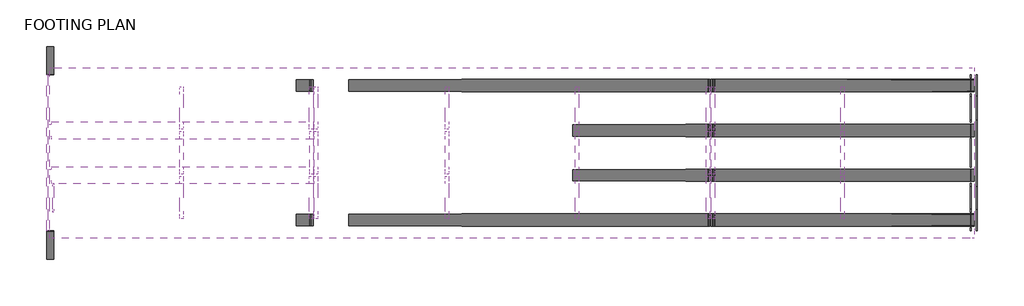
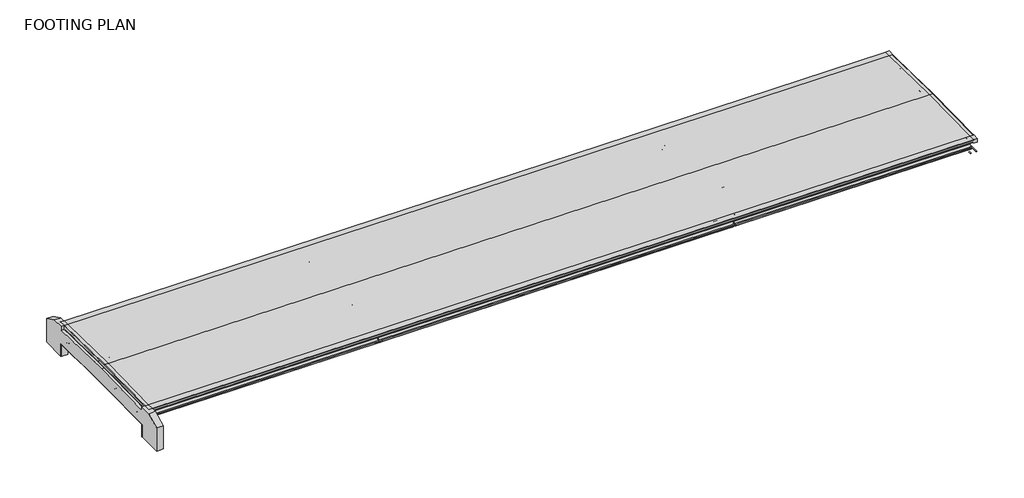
# One storey, incomplete: 44 proxies.
"""IFC4 building model written with IfcOpenShell, lengths in millimetres."""

from ifc_helpers import new_model, si_unit, origin, place, context, project, spatial, transform, mapped, element, save
from components import generic_models_fdd43730, generic_models_738b546a, generic_models_2d12cc2b, generic_models_4376c1b2, generic_models_01ca76c9, generic_models_9e09cbef, generic_models_699fb4ed, generic_models_4f76e8b5, generic_models_9be2dbe9, generic_models_f0f57694, generic_models_b2a3fb4c

model = new_model("IFC4")

# Units and contexts
model_context = context("Model", 3, world=origin())
ifc_project = project(units=[si_unit("LENGTHUNIT", "METRE", prefix="MILLI")], contexts=[model_context])

# Site, building, storey
site = spatial("IfcSite", under=ifc_project)
building = spatial("IfcBuilding", under=site)
storey = spatial("IfcBuildingStorey", under=building, Name="FOOTING PLAN", Elevation=864565.2)

# Proxies
placement = place(None, origin())
generic_models_shape = generic_models_fdd43730(model_context)
element("IfcBuildingElementProxy", 1, Name="Backwall.sat", ObjectType="Backwall.sat", at=placement, inside=storey, context=model_context, shape_type="MappedRepresentation", body=[
    mapped(generic_models_shape, transform((-32715.2, -1e-07, 864752.907016), x_axis=(0.0, -1.0, 0.0), y_axis=(0.0, 0.0, 1.0), z_axis=(-1.0, 0.0, 0.0))),
])
generic_models_2_shape = generic_models_738b546a(model_context)
element("IfcBuildingElementProxy", 2, Name="CapBWFiller.sat", ObjectType="CapBWFiller.sat", at=placement, inside=storey, context=model_context, shape_type="MappedRepresentation", body=[
    mapped(generic_models_2_shape, transform((-32639.0, -1e-07, 865768.907016), x_axis=(0.0, 1.0000000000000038, 0.0), y_axis=(0.0, 0.0, 1.0000000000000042), z_axis=(1.000000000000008, 0.0, 0.0))),
])
element("IfcBuildingElementProxy", 3, Name="CapBWFiller.sat", ObjectType="CapBWFiller.sat", at=placement, inside=storey, context=model_context, shape_type="MappedRepresentation", body=[
    mapped(generic_models_2_shape, transform((32639.0, -1e-07, 865511.249416), x_axis=(0.0, 1.0000000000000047, 0.0), y_axis=(0.0, 0.0, 1.000000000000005), z_axis=(-1.0000000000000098, 0.0, 0.0))),
])
generic_models_3_shape = generic_models_2d12cc2b(model_context)
element("IfcBuildingElementProxy", 4, Name="CapWWFiller.sat", ObjectType="CapWWFiller.sat", at=placement, inside=storey, context=model_context, shape_type="MappedRepresentation", body=[
    mapped(generic_models_3_shape, transform((-32207.2, -5505.4500001, 864752.907016), x_axis=(-1.0, 0.0, 0.0), y_axis=(0.0, 0.0, 1.0), z_axis=(0.0, 1.0, 0.0))),
])
element("IfcBuildingElementProxy", 5, Name="CapWWFiller.sat", ObjectType="CapWWFiller.sat", at=placement, inside=storey, context=model_context, shape_type="MappedRepresentation", body=[
    mapped(generic_models_3_shape, transform((-32207.2, 5505.4499999, 864752.907016), x_axis=(-1.0, 0.0, 0.0), y_axis=(0.0, 0.0, 1.0), z_axis=(0.0, -1.0, 0.0))),
])
generic_models_4_shape = generic_models_4376c1b2(model_context)
element("IfcBuildingElementProxy", 6, Name="MTS-45S2.sat", ObjectType="MTS-45S2.sat", at=placement, inside=storey, context=model_context, shape_type="MappedRepresentation", body=[
    mapped(generic_models_4_shape, transform((-13911.0719634, -4724.4000001, 865774.9613599), x_axis=(0.0, -0.9999999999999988, 0.0), y_axis=(-0.9999920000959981, 0.0, 0.003999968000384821), z_axis=(-0.003999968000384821, 0.0, -0.9999920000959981))),
])
element("IfcBuildingElementProxy", 7, Name="MTS-45S2.sat", ObjectType="MTS-45S2.sat", at=placement, inside=storey, context=model_context, shape_type="MappedRepresentation", body=[
    mapped(generic_models_4_shape, transform((-13911.0719634, -1574.8000001, 865837.9533599), x_axis=(0.0, -0.9999999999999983, 0.0), y_axis=(-0.9999920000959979, 0.0, 0.003999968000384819), z_axis=(-0.003999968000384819, 0.0, -0.9999920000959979))),
])
element("IfcBuildingElementProxy", 8, Name="MTS-45S2.sat", ObjectType="MTS-45S2.sat", at=placement, inside=storey, context=model_context, shape_type="MappedRepresentation", body=[
    mapped(generic_models_4_shape, transform((-13911.0719634, 4724.3999999, 865774.9613599), x_axis=(0.0, 0.9999999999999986, 0.0), y_axis=(-0.999992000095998, 0.0, 0.00399996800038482), z_axis=(-0.00399996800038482, 0.0, -0.999992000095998))),
])
element("IfcBuildingElementProxy", 9, Name="MTS-45S2.sat", ObjectType="MTS-45S2.sat", at=placement, inside=storey, context=model_context, shape_type="MappedRepresentation", body=[
    mapped(generic_models_4_shape, transform((-13911.0719634, 1574.7999999, 865837.9533599), x_axis=(0.0, 0.9999999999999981, 0.0), y_axis=(-0.9999920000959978, 0.0, 0.0039999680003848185), z_axis=(-0.0039999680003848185, 0.0, -0.9999920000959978))),
])
generic_models_5_shape = generic_models_01ca76c9(model_context)
element("IfcBuildingElementProxy", 10, Name="MTS-45S1S3.sat", ObjectType="MTS-45S1S3.sat", at=placement, inside=storey, context=model_context, shape_type="MappedRepresentation", body=[
    mapped(generic_models_5_shape, transform((-32499.2985386, -4724.4000001, 865833.1532069), x_axis=(0.0, -0.9999999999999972, 0.0), y_axis=(-0.9999923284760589, 0.0, 0.0039170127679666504), z_axis=(-0.0039170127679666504, 0.0, -0.9999923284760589))),
])
element("IfcBuildingElementProxy", 11, Name="MTS-45S1S3.sat", ObjectType="MTS-45S1S3.sat", at=placement, inside=storey, context=model_context, shape_type="MappedRepresentation", body=[
    mapped(generic_models_5_shape, transform((32499.2985386, -4724.4000001, 865574.0032251), x_axis=(0.0, -0.9999999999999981, 0.0), y_axis=(0.9999923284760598, 0.0, -0.003917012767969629), z_axis=(-0.003917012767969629, 0.0, -0.9999923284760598))),
])
element("IfcBuildingElementProxy", 12, Name="MTS-45S1S3.sat", ObjectType="MTS-45S1S3.sat", at=placement, inside=storey, context=model_context, shape_type="MappedRepresentation", body=[
    mapped(generic_models_5_shape, transform((-32499.2985386, -1574.8000001, 865896.1452069), x_axis=(0.0, -0.9999999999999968, 0.0), y_axis=(-0.9999923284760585, 0.0, 0.003917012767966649), z_axis=(-0.003917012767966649, 0.0, -0.9999923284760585))),
])
element("IfcBuildingElementProxy", 13, Name="MTS-45S1S3.sat", ObjectType="MTS-45S1S3.sat", at=placement, inside=storey, context=model_context, shape_type="MappedRepresentation", body=[
    mapped(generic_models_5_shape, transform((-32499.2985386, 4724.3999999, 865833.1532069), x_axis=(0.0, 0.999999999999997, 0.0), y_axis=(-0.9999923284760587, 0.0, 0.00391701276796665), z_axis=(-0.00391701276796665, 0.0, -0.9999923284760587))),
])
element("IfcBuildingElementProxy", 14, Name="MTS-45S1S3.sat", ObjectType="MTS-45S1S3.sat", at=placement, inside=storey, context=model_context, shape_type="MappedRepresentation", body=[
    mapped(generic_models_5_shape, transform((-32499.2985386, 1574.7999999, 865896.1452069), x_axis=(0.0, 0.9999999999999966, 0.0), y_axis=(-0.9999923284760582, 0.0, 0.003917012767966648), z_axis=(-0.003917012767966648, 0.0, -0.9999923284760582))),
])
element("IfcBuildingElementProxy", 15, Name="MTS-45S1S3.sat", ObjectType="MTS-45S1S3.sat", at=placement, inside=storey, context=model_context, shape_type="MappedRepresentation", body=[
    mapped(generic_models_5_shape, transform((32499.2985386, -1574.8000001, 865636.9952251), x_axis=(0.0, -0.9999999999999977, 0.0), y_axis=(0.9999923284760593, 0.0, -0.003917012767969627), z_axis=(-0.003917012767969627, 0.0, -0.9999923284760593))),
])
element("IfcBuildingElementProxy", 16, Name="MTS-45S1S3.sat", ObjectType="MTS-45S1S3.sat", at=placement, inside=storey, context=model_context, shape_type="MappedRepresentation", body=[
    mapped(generic_models_5_shape, transform((32499.2985386, 4724.3999999, 865574.0032251), x_axis=(0.0, 0.9999999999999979, 0.0), y_axis=(0.9999923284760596, 0.0, -0.003917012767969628), z_axis=(-0.003917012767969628, 0.0, -0.9999923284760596))),
])
element("IfcBuildingElementProxy", 17, Name="MTS-45S1S3.sat", ObjectType="MTS-45S1S3.sat", at=placement, inside=storey, context=model_context, shape_type="MappedRepresentation", body=[
    mapped(generic_models_5_shape, transform((32499.2985386, 1574.7999999, 865636.9952251), x_axis=(0.0, 0.9999999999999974, 0.0), y_axis=(0.9999923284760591, 0.0, -0.003917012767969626), z_axis=(-0.003917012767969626, 0.0, -0.9999923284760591))),
])
generic_models_6_shape = generic_models_9e09cbef(model_context)
element("IfcBuildingElementProxy", 18, Name="Slab.sat", ObjectType="Slab.sat", at=placement, inside=storey, context=model_context, shape_type="MappedRepresentation", body=[
    mapped(generic_models_6_shape, transform((-32207.2, -1e-07, 867332.785016), x_axis=(0.0, -1.0, 0.0), y_axis=(0.0, 0.0, 1.0), z_axis=(-1.0, 0.0, 0.0))),
])
generic_models_7_shape = generic_models_699fb4ed(model_context)
element("IfcBuildingElementProxy", 19, Name="CapBWFillerFront.sat", ObjectType="CapBWFillerFront.sat", at=placement, inside=storey, context=model_context, shape_type="MappedRepresentation", body=[
    mapped(generic_models_7_shape, transform((-32283.4, -1e-07, 865768.907016), x_axis=(0.0, -1.0000000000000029, 0.0), y_axis=(0.0, 0.0, 1.0000000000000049), z_axis=(-1.000000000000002, 0.0, 0.0))),
])
element("IfcBuildingElementProxy", 20, Name="CapBWFillerFront.sat", ObjectType="CapBWFillerFront.sat", at=placement, inside=storey, context=model_context, shape_type="MappedRepresentation", body=[
    mapped(generic_models_7_shape, transform((32207.2, 0.0, 865511.249416), x_axis=(0.0, -1.0000000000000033, 0.0), y_axis=(0.0, 0.0, 1.0000000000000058), z_axis=(-1.0000000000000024, 0.0, 0.0))),
])
generic_models_8_shape = generic_models_4f76e8b5(model_context)
element("IfcBuildingElementProxy", 21, Name="Diaphragm-Int.sat", ObjectType="Diaphragm-Int.sat", at=placement, inside=storey, context=model_context, shape_type="MappedRepresentation", body=[
    mapped(generic_models_8_shape, transform((-23241.0, -4876.8000001, 865650.8901116), x_axis=(0.0, -1.0, 0.0), y_axis=(0.0, 0.0, 1.0), z_axis=(-1.0, 0.0, 0.0))),
])
element("IfcBuildingElementProxy", 22, Name="Diaphragm-Int.sat", ObjectType="Diaphragm-Int.sat", at=placement, inside=storey, context=model_context, shape_type="MappedRepresentation", body=[
    mapped(generic_models_8_shape, transform((-23241.0, 4876.7999999, 865650.8901116), x_axis=(0.0, 1.0, 0.0), y_axis=(0.0, 0.0, 1.0), z_axis=(-1.0, 0.0, 0.0))),
])
element("IfcBuildingElementProxy", 23, Name="Diaphragm-Int.sat", ObjectType="Diaphragm-Int.sat", at=placement, inside=storey, context=model_context, shape_type="MappedRepresentation", body=[
    mapped(generic_models_8_shape, transform((-4572.0, -4876.8000001, 865576.7868191), x_axis=(0.0, -1.0, 0.0), y_axis=(0.0, 0.0, 1.0), z_axis=(-1.0, 0.0, 0.0))),
])
element("IfcBuildingElementProxy", 24, Name="Diaphragm-Int.sat", ObjectType="Diaphragm-Int.sat", at=placement, inside=storey, context=model_context, shape_type="MappedRepresentation", body=[
    mapped(generic_models_8_shape, transform((-4572.0, 4876.7999999, 865576.7868191), x_axis=(0.0, 1.0, 0.0), y_axis=(0.0, 0.0, 1.0), z_axis=(-1.0, 0.0, 0.0))),
])
element("IfcBuildingElementProxy", 25, Name="Diaphragm-Int.sat", ObjectType="Diaphragm-Int.sat", at=placement, inside=storey, context=model_context, shape_type="MappedRepresentation", body=[
    mapped(generic_models_8_shape, transform((4572.0, -4876.8000001, 865540.2041219), x_axis=(0.0, -1.0, 0.0), y_axis=(0.0, 0.0, 1.0), z_axis=(-1.0, 0.0, 0.0))),
])
element("IfcBuildingElementProxy", 26, Name="Diaphragm-Int.sat", ObjectType="Diaphragm-Int.sat", at=placement, inside=storey, context=model_context, shape_type="MappedRepresentation", body=[
    mapped(generic_models_8_shape, transform((4572.0, 4876.7999999, 865540.2041219), x_axis=(0.0, 1.0, 0.0), y_axis=(0.0, 0.0, 1.0), z_axis=(-1.0, 0.0, 0.0))),
])
element("IfcBuildingElementProxy", 27, Name="Diaphragm-Int.sat", ObjectType="Diaphragm-Int.sat", at=placement, inside=storey, context=model_context, shape_type="MappedRepresentation", body=[
    mapped(generic_models_8_shape, transform((23241.0, -4876.8000001, 865465.608245), x_axis=(0.0, -1.0, 0.0), y_axis=(0.0, 0.0, 1.0), z_axis=(-1.0, 0.0, 0.0))),
])
element("IfcBuildingElementProxy", 28, Name="Diaphragm-Int.sat", ObjectType="Diaphragm-Int.sat", at=placement, inside=storey, context=model_context, shape_type="MappedRepresentation", body=[
    mapped(generic_models_8_shape, transform((23241.0, 4876.7999999, 865465.608245), x_axis=(0.0, 1.0, 0.0), y_axis=(0.0, 0.0, 1.0), z_axis=(-1.0, 0.0, 0.0))),
])
generic_models_9_shape = generic_models_9be2dbe9(model_context)
element("IfcBuildingElementProxy", 29, Name="Diaphragm-IntCenter.sat", ObjectType="Diaphragm-IntCenter.sat", at=placement, inside=storey, context=model_context, shape_type="MappedRepresentation", body=[
    mapped(generic_models_9_shape, transform((-23241.0, -1727.2000001, 865711.8699845), x_axis=(0.0, -1.0, 0.0), y_axis=(0.0, 0.0, 1.0), z_axis=(-1.0, 0.0, 0.0))),
])
element("IfcBuildingElementProxy", 30, Name="Diaphragm-IntCenter.sat", ObjectType="Diaphragm-IntCenter.sat", at=placement, inside=storey, context=model_context, shape_type="MappedRepresentation", body=[
    mapped(generic_models_9_shape, transform((-4572.0, -1727.2000001, 865637.766692), x_axis=(0.0, -1.0, 0.0), y_axis=(0.0, 0.0, 1.0), z_axis=(-1.0, 0.0, 0.0))),
])
element("IfcBuildingElementProxy", 31, Name="Diaphragm-IntCenter.sat", ObjectType="Diaphragm-IntCenter.sat", at=placement, inside=storey, context=model_context, shape_type="MappedRepresentation", body=[
    mapped(generic_models_9_shape, transform((4572.0, -1727.2000001, 865601.1839948), x_axis=(0.0, -1.0, 0.0), y_axis=(0.0, 0.0, 1.0), z_axis=(-1.0, 0.0, 0.0))),
])
element("IfcBuildingElementProxy", 32, Name="Diaphragm-IntCenter.sat", ObjectType="Diaphragm-IntCenter.sat", at=placement, inside=storey, context=model_context, shape_type="MappedRepresentation", body=[
    mapped(generic_models_9_shape, transform((23241.0, -1727.2000001, 865526.5881179), x_axis=(0.0, -1.0, 0.0), y_axis=(0.0, 0.0, 1.0), z_axis=(-1.0, 0.0, 0.0))),
])
generic_models_10_shape = generic_models_f0f57694(model_context)
element("IfcBuildingElementProxy", 33, Name="Diaphragm-End.sat", ObjectType="Diaphragm-End.sat", at=placement, inside=storey, context=model_context, shape_type="MappedRepresentation", body=[
    mapped(generic_models_10_shape, transform((-14109.716224, -4876.8000001, 865617.2961051), x_axis=(0.0, -1.0, 0.0), y_axis=(0.0, 0.0, 1.0), z_axis=(-1.0, 0.0, 0.0))),
])
element("IfcBuildingElementProxy", 34, Name="Diaphragm-End.sat", ObjectType="Diaphragm-End.sat", at=placement, inside=storey, context=model_context, shape_type="MappedRepresentation", body=[
    mapped(generic_models_10_shape, transform((-14109.716224, 4876.7999999, 865617.2961051), x_axis=(0.0, 1.0, 0.0), y_axis=(0.0, 0.0, 1.0), z_axis=(-1.0, 0.0, 0.0))),
])
element("IfcBuildingElementProxy", 35, Name="Diaphragm-End.sat", ObjectType="Diaphragm-End.sat", at=placement, inside=storey, context=model_context, shape_type="MappedRepresentation", body=[
    mapped(generic_models_10_shape, transform((-13779.6358006, -4876.8000001, 865617.2961051), x_axis=(0.0, -1.0, 0.0), y_axis=(0.0, 0.0, 1.0), z_axis=(-1.0, 0.0, 0.0))),
])
element("IfcBuildingElementProxy", 36, Name="Diaphragm-End.sat", ObjectType="Diaphragm-End.sat", at=placement, inside=storey, context=model_context, shape_type="MappedRepresentation", body=[
    mapped(generic_models_10_shape, transform((-13779.6358006, 4876.7999999, 865617.2961051), x_axis=(0.0, 1.0, 0.0), y_axis=(0.0, 0.0, 1.0), z_axis=(-1.0, 0.0, 0.0))),
])
element("IfcBuildingElementProxy", 37, Name="Diaphragm-End.sat", ObjectType="Diaphragm-End.sat", at=placement, inside=storey, context=model_context, shape_type="MappedRepresentation", body=[
    mapped(generic_models_10_shape, transform((14114.3177347, -4876.8000001, 865505.4634511), x_axis=(0.0, -1.0, 0.0), y_axis=(0.0, 0.0, 1.0), z_axis=(-1.0, 0.0, 0.0))),
])
element("IfcBuildingElementProxy", 38, Name="Diaphragm-End.sat", ObjectType="Diaphragm-End.sat", at=placement, inside=storey, context=model_context, shape_type="MappedRepresentation", body=[
    mapped(generic_models_10_shape, transform((14114.3177347, 4876.7999999, 865505.4634511), x_axis=(0.0, 1.0, 0.0), y_axis=(0.0, 0.0, 1.0), z_axis=(-1.0, 0.0, 0.0))),
])
element("IfcBuildingElementProxy", 39, Name="Diaphragm-End.sat", ObjectType="Diaphragm-End.sat", at=placement, inside=storey, context=model_context, shape_type="MappedRepresentation", body=[
    mapped(generic_models_10_shape, transform((13779.2774987, -4876.8000001, 865505.4634511), x_axis=(0.0, -1.0, 0.0), y_axis=(0.0, 0.0, 1.0), z_axis=(-1.0, 0.0, 0.0))),
])
element("IfcBuildingElementProxy", 40, Name="Diaphragm-End.sat", ObjectType="Diaphragm-End.sat", at=placement, inside=storey, context=model_context, shape_type="MappedRepresentation", body=[
    mapped(generic_models_10_shape, transform((13779.2774987, 4876.7999999, 865505.4634511), x_axis=(0.0, 1.0, 0.0), y_axis=(0.0, 0.0, 1.0), z_axis=(-1.0, 0.0, 0.0))),
])
generic_models_11_shape = generic_models_b2a3fb4c(model_context)
element("IfcBuildingElementProxy", 41, Name="Diaphragm-EndCenter.sat", ObjectType="Diaphragm-EndCenter.sat", at=placement, inside=storey, context=model_context, shape_type="MappedRepresentation", body=[
    mapped(generic_models_11_shape, transform((-14105.4964278, -1727.2000001, 865676.5087444), x_axis=(0.0, -1.0000000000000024, 0.0), y_axis=(0.0, 0.0, 1.0000000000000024), z_axis=(-1.0, 0.0, 0.0))),
])
element("IfcBuildingElementProxy", 42, Name="Diaphragm-EndCenter.sat", ObjectType="Diaphragm-EndCenter.sat", at=placement, inside=storey, context=model_context, shape_type="MappedRepresentation", body=[
    mapped(generic_models_11_shape, transform((-13775.4160044, -1727.2000001, 865676.5087444), x_axis=(0.0, -1.0000000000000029, 0.0), y_axis=(0.0, 0.0, 1.0000000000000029), z_axis=(-1.0, 0.0, 0.0))),
])
element("IfcBuildingElementProxy", 43, Name="Diaphragm-EndCenter.sat", ObjectType="Diaphragm-EndCenter.sat", at=placement, inside=storey, context=model_context, shape_type="MappedRepresentation", body=[
    mapped(generic_models_11_shape, transform((14118.5375309, -1727.2000001, 865564.6760904), x_axis=(0.0, -1.0000000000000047, 0.0), y_axis=(0.0, 0.0, 1.0000000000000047), z_axis=(-1.0, 0.0, 0.0))),
])
element("IfcBuildingElementProxy", 44, Name="Diaphragm-EndCenter.sat", ObjectType="Diaphragm-EndCenter.sat", at=placement, inside=storey, context=model_context, shape_type="MappedRepresentation", body=[
    mapped(generic_models_11_shape, transform((13783.4972949, -1727.2000001, 865564.6760904), x_axis=(0.0, -1.000000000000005, 0.0), y_axis=(0.0, 0.0, 1.000000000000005), z_axis=(-1.0, 0.0, 0.0))),
])

save(model, "model.ifc")
